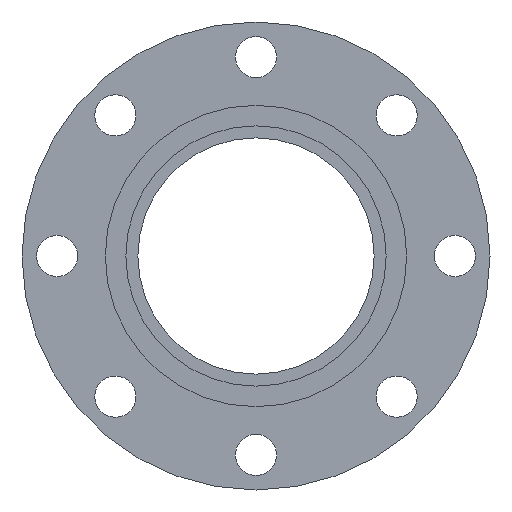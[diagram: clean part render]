
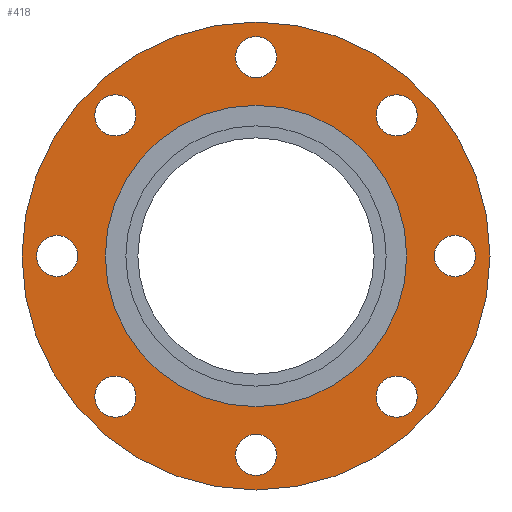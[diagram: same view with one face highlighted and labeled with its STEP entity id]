
A CAD part, left-side view. The second image highlights one B-rep face of the part: STEP entity #418.
In plain terms, the highlighted planar face has unit normal (-1, 0, 0).
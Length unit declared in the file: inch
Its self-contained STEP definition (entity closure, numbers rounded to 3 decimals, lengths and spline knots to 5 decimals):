
#14=FACE_BOUND('',#72,.T.);
#15=FACE_BOUND('',#73,.T.);
#16=FACE_BOUND('',#74,.T.);
#17=FACE_BOUND('',#75,.T.);
#18=FACE_BOUND('',#76,.T.);
#19=FACE_BOUND('',#77,.T.);
#20=FACE_BOUND('',#78,.T.);
#21=FACE_BOUND('',#79,.T.);
#22=FACE_BOUND('',#80,.T.);
#36=PLANE('',#478);
#51=FACE_OUTER_BOUND('',#71,.T.);
#71=EDGE_LOOP('',(#304,#305));
#72=EDGE_LOOP('',(#306));
#73=EDGE_LOOP('',(#307));
#74=EDGE_LOOP('',(#308));
#75=EDGE_LOOP('',(#309));
#76=EDGE_LOOP('',(#310));
#77=EDGE_LOOP('',(#311));
#78=EDGE_LOOP('',(#312));
#79=EDGE_LOOP('',(#313));
#80=EDGE_LOOP('',(#314,#315));
#133=CIRCLE('',#451,0.44);
#135=CIRCLE('',#454,0.44);
#137=CIRCLE('',#457,0.44);
#139=CIRCLE('',#460,0.44);
#141=CIRCLE('',#463,0.44);
#143=CIRCLE('',#466,0.44);
#145=CIRCLE('',#469,0.44);
#147=CIRCLE('',#472,0.44);
#148=CIRCLE('',#474,5.);
#149=CIRCLE('',#475,5.);
#152=CIRCLE('',#479,3.22);
#153=CIRCLE('',#480,3.22);
#173=VERTEX_POINT('',#649);
#175=VERTEX_POINT('',#655);
#177=VERTEX_POINT('',#661);
#179=VERTEX_POINT('',#667);
#181=VERTEX_POINT('',#673);
#183=VERTEX_POINT('',#679);
#185=VERTEX_POINT('',#685);
#187=VERTEX_POINT('',#691);
#188=VERTEX_POINT('',#695);
#189=VERTEX_POINT('',#696);
#192=VERTEX_POINT('',#705);
#193=VERTEX_POINT('',#706);
#214=EDGE_CURVE('',#173,#173,#133,.T.);
#217=EDGE_CURVE('',#175,#175,#135,.T.);
#220=EDGE_CURVE('',#177,#177,#137,.T.);
#223=EDGE_CURVE('',#179,#179,#139,.T.);
#226=EDGE_CURVE('',#181,#181,#141,.T.);
#229=EDGE_CURVE('',#183,#183,#143,.T.);
#232=EDGE_CURVE('',#185,#185,#145,.T.);
#235=EDGE_CURVE('',#187,#187,#147,.T.);
#236=EDGE_CURVE('',#188,#189,#148,.T.);
#237=EDGE_CURVE('',#189,#188,#149,.T.);
#241=EDGE_CURVE('',#192,#193,#152,.T.);
#242=EDGE_CURVE('',#193,#192,#153,.T.);
#304=ORIENTED_EDGE('',*,*,#236,.T.);
#305=ORIENTED_EDGE('',*,*,#237,.T.);
#306=ORIENTED_EDGE('',*,*,#214,.T.);
#307=ORIENTED_EDGE('',*,*,#217,.T.);
#308=ORIENTED_EDGE('',*,*,#220,.T.);
#309=ORIENTED_EDGE('',*,*,#223,.T.);
#310=ORIENTED_EDGE('',*,*,#226,.T.);
#311=ORIENTED_EDGE('',*,*,#229,.T.);
#312=ORIENTED_EDGE('',*,*,#232,.T.);
#313=ORIENTED_EDGE('',*,*,#235,.T.);
#314=ORIENTED_EDGE('',*,*,#241,.F.);
#315=ORIENTED_EDGE('',*,*,#242,.F.);
#418=ADVANCED_FACE('',(#51,#14,#15,#16,#17,#18,#19,#20,#21,#22),#36,.T.);
#451=AXIS2_PLACEMENT_3D('',#651,#516,#517);
#454=AXIS2_PLACEMENT_3D('',#657,#523,#524);
#457=AXIS2_PLACEMENT_3D('',#663,#530,#531);
#460=AXIS2_PLACEMENT_3D('',#669,#537,#538);
#463=AXIS2_PLACEMENT_3D('',#675,#544,#545);
#466=AXIS2_PLACEMENT_3D('',#681,#551,#552);
#469=AXIS2_PLACEMENT_3D('',#687,#558,#559);
#472=AXIS2_PLACEMENT_3D('',#693,#565,#566);
#474=AXIS2_PLACEMENT_3D('',#697,#569,#570);
#475=AXIS2_PLACEMENT_3D('',#698,#571,#572);
#478=AXIS2_PLACEMENT_3D('',#704,#578,#579);
#479=AXIS2_PLACEMENT_3D('',#707,#580,#581);
#480=AXIS2_PLACEMENT_3D('',#708,#582,#583);
#516=DIRECTION('center_axis',(1.,0.,0.));
#517=DIRECTION('ref_axis',(0.,-0.707,0.707));
#523=DIRECTION('center_axis',(1.,0.,0.));
#524=DIRECTION('ref_axis',(0.,-1.,0.));
#530=DIRECTION('center_axis',(1.,0.,0.));
#531=DIRECTION('ref_axis',(0.,-0.707,-0.707));
#537=DIRECTION('center_axis',(1.,0.,0.));
#538=DIRECTION('ref_axis',(0.,0.,-1.));
#544=DIRECTION('center_axis',(1.,0.,0.));
#545=DIRECTION('ref_axis',(0.,0.707,-0.707));
#551=DIRECTION('center_axis',(1.,0.,0.));
#552=DIRECTION('ref_axis',(0.,1.,0.));
#558=DIRECTION('center_axis',(1.,0.,0.));
#559=DIRECTION('ref_axis',(0.,0.707,0.707));
#565=DIRECTION('center_axis',(1.,0.,0.));
#566=DIRECTION('ref_axis',(0.,0.,1.));
#569=DIRECTION('center_axis',(-1.,0.,0.));
#570=DIRECTION('ref_axis',(0.,0.,1.));
#571=DIRECTION('center_axis',(-1.,0.,0.));
#572=DIRECTION('ref_axis',(0.,0.,1.));
#578=DIRECTION('center_axis',(-1.,0.,0.));
#579=DIRECTION('ref_axis',(0.,0.,1.));
#580=DIRECTION('center_axis',(-1.,0.,0.));
#581=DIRECTION('ref_axis',(0.,0.,1.));
#582=DIRECTION('center_axis',(-1.,0.,0.));
#583=DIRECTION('ref_axis',(0.,0.,1.));
#649=CARTESIAN_POINT('',(-0.94,3.31633,-3.31633));
#651=CARTESIAN_POINT('Origin',(-0.94,3.0052,-3.0052));
#655=CARTESIAN_POINT('',(-0.94,4.69,0.));
#657=CARTESIAN_POINT('Origin',(-0.94,4.25,0.));
#661=CARTESIAN_POINT('',(-0.94,3.31633,3.31633));
#663=CARTESIAN_POINT('Origin',(-0.94,3.0052,3.0052));
#667=CARTESIAN_POINT('',(-0.94,0.,4.69));
#669=CARTESIAN_POINT('Origin',(-0.94,0.,4.25));
#673=CARTESIAN_POINT('',(-0.94,-3.31633,3.31633));
#675=CARTESIAN_POINT('Origin',(-0.94,-3.0052,3.0052));
#679=CARTESIAN_POINT('',(-0.94,-4.69,0.));
#681=CARTESIAN_POINT('Origin',(-0.94,-4.25,0.));
#685=CARTESIAN_POINT('',(-0.94,-3.31633,-3.31633));
#687=CARTESIAN_POINT('Origin',(-0.94,-3.0052,-3.0052));
#691=CARTESIAN_POINT('',(-0.94,0.,-4.69));
#693=CARTESIAN_POINT('Origin',(-0.94,0.,-4.25));
#695=CARTESIAN_POINT('',(-0.94,0.,5.));
#696=CARTESIAN_POINT('',(-0.94,0.,-5.));
#697=CARTESIAN_POINT('Origin',(-0.94,0.,0.));
#698=CARTESIAN_POINT('Origin',(-0.94,0.,0.));
#704=CARTESIAN_POINT('Origin',(-0.94,0.,4.11));
#705=CARTESIAN_POINT('',(-0.94,0.,3.22));
#706=CARTESIAN_POINT('',(-0.94,0.,-3.22));
#707=CARTESIAN_POINT('Origin',(-0.94,0.,0.));
#708=CARTESIAN_POINT('Origin',(-0.94,0.,0.));
